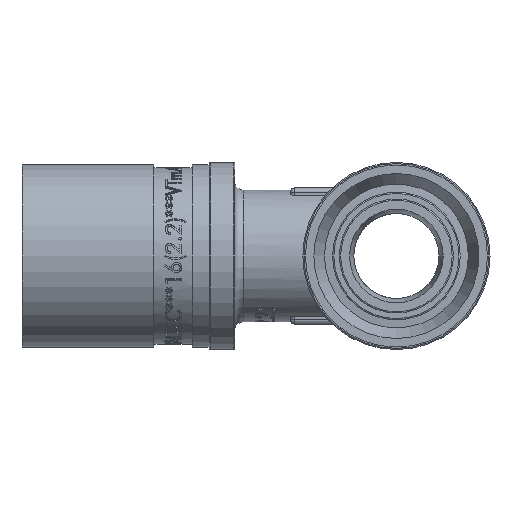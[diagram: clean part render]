
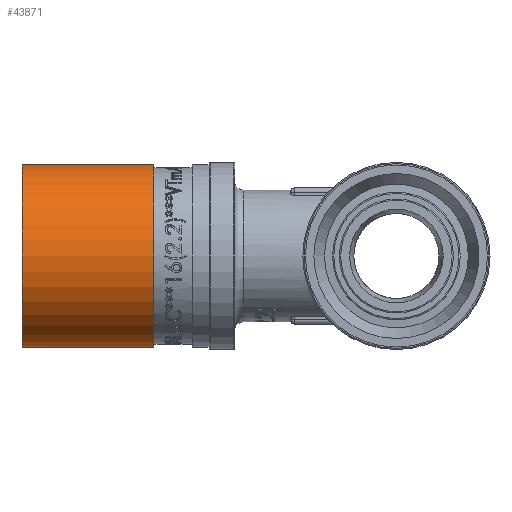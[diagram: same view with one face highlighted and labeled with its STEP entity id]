
A CAD part, left-side view. The second image highlights one B-rep face of the part: STEP entity #43871.
In plain terms, the highlighted cylindrical face has radius 10.7 mm (diameter 21.4 mm), a full revolution.
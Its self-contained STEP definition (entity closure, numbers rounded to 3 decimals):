
#3694=FACE_OUTER_BOUND('',#6278,.T.);
#6278=EDGE_LOOP('',(#35740,#35741,#35742,#35743,#35744,#35745));
#9225=LINE('',#76606,#12309);
#12309=VECTOR('',#52228,10.7);
#17014=CIRCLE('',#46595,10.7);
#17015=CIRCLE('',#46596,10.7);
#17032=CIRCLE('',#46620,10.7);
#17033=CIRCLE('',#46621,10.7);
#19797=VERTEX_POINT('',#76526);
#19798=VERTEX_POINT('',#76527);
#19819=VERTEX_POINT('',#76601);
#19820=VERTEX_POINT('',#76602);
#25474=EDGE_CURVE('',#19797,#19798,#17014,.T.);
#25475=EDGE_CURVE('',#19798,#19797,#17015,.T.);
#25500=EDGE_CURVE('',#19819,#19820,#17032,.T.);
#25501=EDGE_CURVE('',#19820,#19819,#17033,.T.);
#25502=EDGE_CURVE('',#19820,#19798,#9225,.T.);
#35740=ORIENTED_EDGE('',*,*,#25500,.F.);
#35741=ORIENTED_EDGE('',*,*,#25501,.F.);
#35742=ORIENTED_EDGE('',*,*,#25502,.T.);
#35743=ORIENTED_EDGE('',*,*,#25475,.T.);
#35744=ORIENTED_EDGE('',*,*,#25474,.T.);
#35745=ORIENTED_EDGE('',*,*,#25502,.F.);
#42495=CYLINDRICAL_SURFACE('',#46622,10.7);
#43871=ADVANCED_FACE('',(#3694),#42495,.T.);
#46595=AXIS2_PLACEMENT_3D('',#76528,#52168,#52169);
#46596=AXIS2_PLACEMENT_3D('',#76529,#52170,#52171);
#46620=AXIS2_PLACEMENT_3D('',#76603,#52222,#52223);
#46621=AXIS2_PLACEMENT_3D('',#76604,#52224,#52225);
#46622=AXIS2_PLACEMENT_3D('',#76605,#52226,#52227);
#52168=DIRECTION('center_axis',(0.,1.,0.));
#52169=DIRECTION('ref_axis',(0.,0.,-1.));
#52170=DIRECTION('center_axis',(0.,1.,0.));
#52171=DIRECTION('ref_axis',(0.,0.,-1.));
#52222=DIRECTION('center_axis',(0.,1.,0.));
#52223=DIRECTION('ref_axis',(0.,0.,-1.));
#52224=DIRECTION('center_axis',(0.,1.,0.));
#52225=DIRECTION('ref_axis',(0.,0.,-1.));
#52226=DIRECTION('center_axis',(0.,1.,0.));
#52227=DIRECTION('ref_axis',(-1.,0.,0.));
#52228=DIRECTION('',(0.,-1.,0.));
#76526=CARTESIAN_POINT('',(-10.7,28.512,0.));
#76527=CARTESIAN_POINT('',(10.7,28.512,0.));
#76528=CARTESIAN_POINT('Origin',(0.,28.512,
0.));
#76529=CARTESIAN_POINT('Origin',(0.,28.512,
0.));
#76601=CARTESIAN_POINT('',(-10.7,44.012,0.));
#76602=CARTESIAN_POINT('',(10.7,44.012,0.));
#76603=CARTESIAN_POINT('Origin',(0.,44.012,
0.));
#76604=CARTESIAN_POINT('Origin',(0.,44.012,
0.));
#76605=CARTESIAN_POINT('Origin',(0.,36.262,
0.));
#76606=CARTESIAN_POINT('',(10.7,36.262,0.));
